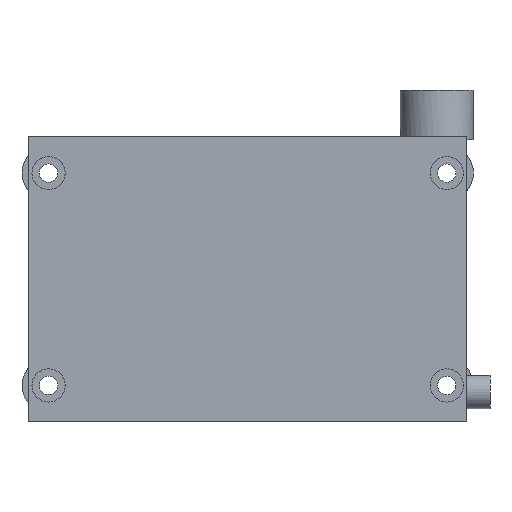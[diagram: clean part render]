
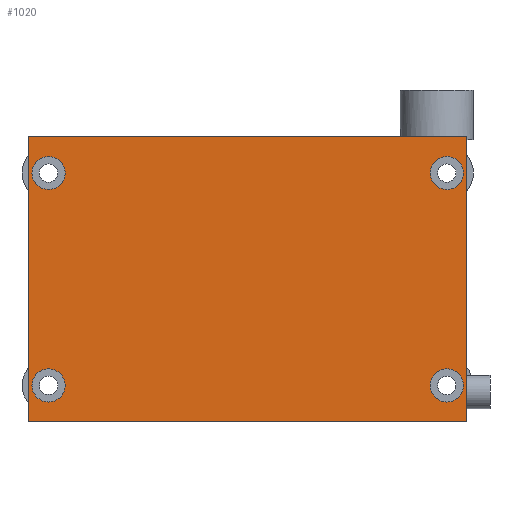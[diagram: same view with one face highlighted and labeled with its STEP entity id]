
A CAD part, front view. The second image highlights one B-rep face of the part: STEP entity #1020.
In plain terms, the highlighted planar face has unit normal (0, -1, 0).
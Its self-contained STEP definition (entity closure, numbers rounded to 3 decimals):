
#32 = PLANE('',#33);
#33 = AXIS2_PLACEMENT_3D('',#34,#35,#36);
#34 = CARTESIAN_POINT('',(-66.,-78.,592.));
#35 = DIRECTION('',(1.,-0.,-0.));
#36 = DIRECTION('',(0.,0.,-1.));
#57 = VERTEX_POINT('',#58);
#58 = CARTESIAN_POINT('',(-66.,-124.,592.));
#72 = PLANE('',#73);
#73 = AXIS2_PLACEMENT_3D('',#74,#75,#76);
#74 = CARTESIAN_POINT('',(-66.,-78.,592.));
#75 = DIRECTION('',(-0.,-0.,1.));
#76 = DIRECTION('',(-1.,0.,0.));
#84 = EDGE_CURVE('',#57,#85,#87,.T.);
#85 = VERTEX_POINT('',#86);
#86 = CARTESIAN_POINT('',(-66.,-124.,678.));
#87 = SURFACE_CURVE('',#88,(#92,#99),.PCURVE_S1.);
#88 = LINE('',#89,#90);
#89 = CARTESIAN_POINT('',(-66.,-124.,592.));
#90 = VECTOR('',#91,1.);
#91 = DIRECTION('',(-0.,-0.,1.));
#92 = PCURVE('',#32,#93);
#93 = DEFINITIONAL_REPRESENTATION('',(#94),#98);
#94 = LINE('',#95,#96);
#95 = CARTESIAN_POINT('',(-0.,-46.));
#96 = VECTOR('',#97,1.);
#97 = DIRECTION('',(-1.,0.));
#98 = ( GEOMETRIC_REPRESENTATION_CONTEXT(2) 
PARAMETRIC_REPRESENTATION_CONTEXT() REPRESENTATION_CONTEXT('2D SPACE',''
  ) );
#99 = PCURVE('',#100,#105);
#100 = PLANE('',#101);
#101 = AXIS2_PLACEMENT_3D('',#102,#103,#104);
#102 = CARTESIAN_POINT('',(-66.,-124.,592.));
#103 = DIRECTION('',(-0.,-1.,0.));
#104 = DIRECTION('',(0.,0.,-1.));
#105 = DEFINITIONAL_REPRESENTATION('',(#106),#110);
#106 = LINE('',#107,#108);
#107 = CARTESIAN_POINT('',(-0.,0.));
#108 = VECTOR('',#109,1.);
#109 = DIRECTION('',(-1.,0.));
#110 = ( GEOMETRIC_REPRESENTATION_CONTEXT(2) 
PARAMETRIC_REPRESENTATION_CONTEXT() REPRESENTATION_CONTEXT('2D SPACE',''
  ) );
#128 = PLANE('',#129);
#129 = AXIS2_PLACEMENT_3D('',#130,#131,#132);
#130 = CARTESIAN_POINT('',(-66.,-78.,678.));
#131 = DIRECTION('',(-0.,-0.,1.));
#132 = DIRECTION('',(-1.,0.,0.));
#384 = PLANE('',#385);
#385 = AXIS2_PLACEMENT_3D('',#386,#387,#388);
#386 = CARTESIAN_POINT('',(66.,-78.,592.));
#387 = DIRECTION('',(1.,-0.,-0.));
#388 = DIRECTION('',(0.,0.,-1.));
#919 = EDGE_CURVE('',#85,#920,#922,.T.);
#920 = VERTEX_POINT('',#921);
#921 = CARTESIAN_POINT('',(66.,-124.,678.));
#922 = SURFACE_CURVE('',#923,(#927,#934),.PCURVE_S1.);
#923 = LINE('',#924,#925);
#924 = CARTESIAN_POINT('',(-66.,-124.,678.));
#925 = VECTOR('',#926,1.);
#926 = DIRECTION('',(1.,-0.,-0.));
#927 = PCURVE('',#128,#928);
#928 = DEFINITIONAL_REPRESENTATION('',(#929),#933);
#929 = LINE('',#930,#931);
#930 = CARTESIAN_POINT('',(-0.,46.));
#931 = VECTOR('',#932,1.);
#932 = DIRECTION('',(-1.,-0.));
#933 = ( GEOMETRIC_REPRESENTATION_CONTEXT(2) 
PARAMETRIC_REPRESENTATION_CONTEXT() REPRESENTATION_CONTEXT('2D SPACE',''
  ) );
#934 = PCURVE('',#100,#935);
#935 = DEFINITIONAL_REPRESENTATION('',(#936),#940);
#936 = LINE('',#937,#938);
#937 = CARTESIAN_POINT('',(-86.,0.));
#938 = VECTOR('',#939,1.);
#939 = DIRECTION('',(0.,1.));
#940 = ( GEOMETRIC_REPRESENTATION_CONTEXT(2) 
PARAMETRIC_REPRESENTATION_CONTEXT() REPRESENTATION_CONTEXT('2D SPACE',''
  ) );
#1020 = ADVANCED_FACE('',(#1021,#1069,#1100,#1131,#1162),#100,.T.);
#1021 = FACE_BOUND('',#1022,.F.);
#1022 = EDGE_LOOP('',(#1023,#1046,#1047,#1048));
#1023 = ORIENTED_EDGE('',*,*,#1024,.F.);
#1024 = EDGE_CURVE('',#57,#1025,#1027,.T.);
#1025 = VERTEX_POINT('',#1026);
#1026 = CARTESIAN_POINT('',(66.,-124.,592.));
#1027 = SURFACE_CURVE('',#1028,(#1032,#1039),.PCURVE_S1.);
#1028 = LINE('',#1029,#1030);
#1029 = CARTESIAN_POINT('',(-66.,-124.,592.));
#1030 = VECTOR('',#1031,1.);
#1031 = DIRECTION('',(1.,-0.,-0.));
#1032 = PCURVE('',#100,#1033);
#1033 = DEFINITIONAL_REPRESENTATION('',(#1034),#1038);
#1034 = LINE('',#1035,#1036);
#1035 = CARTESIAN_POINT('',(-0.,0.));
#1036 = VECTOR('',#1037,1.);
#1037 = DIRECTION('',(0.,1.));
#1038 = ( GEOMETRIC_REPRESENTATION_CONTEXT(2) 
PARAMETRIC_REPRESENTATION_CONTEXT() REPRESENTATION_CONTEXT('2D SPACE',''
  ) );
#1039 = PCURVE('',#72,#1040);
#1040 = DEFINITIONAL_REPRESENTATION('',(#1041),#1045);
#1041 = LINE('',#1042,#1043);
#1042 = CARTESIAN_POINT('',(-0.,46.));
#1043 = VECTOR('',#1044,1.);
#1044 = DIRECTION('',(-1.,-0.));
#1045 = ( GEOMETRIC_REPRESENTATION_CONTEXT(2) 
PARAMETRIC_REPRESENTATION_CONTEXT() REPRESENTATION_CONTEXT('2D SPACE',''
  ) );
#1046 = ORIENTED_EDGE('',*,*,#84,.T.);
#1047 = ORIENTED_EDGE('',*,*,#919,.T.);
#1048 = ORIENTED_EDGE('',*,*,#1049,.F.);
#1049 = EDGE_CURVE('',#1025,#920,#1050,.T.);
#1050 = SURFACE_CURVE('',#1051,(#1055,#1062),.PCURVE_S1.);
#1051 = LINE('',#1052,#1053);
#1052 = CARTESIAN_POINT('',(66.,-124.,592.));
#1053 = VECTOR('',#1054,1.);
#1054 = DIRECTION('',(-0.,-0.,1.));
#1055 = PCURVE('',#100,#1056);
#1056 = DEFINITIONAL_REPRESENTATION('',(#1057),#1061);
#1057 = LINE('',#1058,#1059);
#1058 = CARTESIAN_POINT('',(-0.,132.));
#1059 = VECTOR('',#1060,1.);
#1060 = DIRECTION('',(-1.,0.));
#1061 = ( GEOMETRIC_REPRESENTATION_CONTEXT(2) 
PARAMETRIC_REPRESENTATION_CONTEXT() REPRESENTATION_CONTEXT('2D SPACE',''
  ) );
#1062 = PCURVE('',#384,#1063);
#1063 = DEFINITIONAL_REPRESENTATION('',(#1064),#1068);
#1064 = LINE('',#1065,#1066);
#1065 = CARTESIAN_POINT('',(-0.,-46.));
#1066 = VECTOR('',#1067,1.);
#1067 = DIRECTION('',(-1.,0.));
#1068 = ( GEOMETRIC_REPRESENTATION_CONTEXT(2) 
PARAMETRIC_REPRESENTATION_CONTEXT() REPRESENTATION_CONTEXT('2D SPACE',''
  ) );
#1069 = FACE_BOUND('',#1070,.F.);
#1070 = EDGE_LOOP('',(#1071));
#1071 = ORIENTED_EDGE('',*,*,#1072,.T.);
#1072 = EDGE_CURVE('',#1073,#1073,#1075,.T.);
#1073 = VERTEX_POINT('',#1074);
#1074 = CARTESIAN_POINT('',(-55.,-124.,603.));
#1075 = SURFACE_CURVE('',#1076,(#1081,#1088),.PCURVE_S1.);
#1076 = CIRCLE('',#1077,5.);
#1077 = AXIS2_PLACEMENT_3D('',#1078,#1079,#1080);
#1078 = CARTESIAN_POINT('',(-60.,-124.,603.));
#1079 = DIRECTION('',(-0.,-1.,0.));
#1080 = DIRECTION('',(1.,-0.,-0.));
#1081 = PCURVE('',#100,#1082);
#1082 = DEFINITIONAL_REPRESENTATION('',(#1083),#1087);
#1083 = CIRCLE('',#1084,5.);
#1084 = AXIS2_PLACEMENT_2D('',#1085,#1086);
#1085 = CARTESIAN_POINT('',(-11.,6.));
#1086 = DIRECTION('',(-0.,1.));
#1087 = ( GEOMETRIC_REPRESENTATION_CONTEXT(2) 
PARAMETRIC_REPRESENTATION_CONTEXT() REPRESENTATION_CONTEXT('2D SPACE',''
  ) );
#1088 = PCURVE('',#1089,#1094);
#1089 = CYLINDRICAL_SURFACE('',#1090,5.);
#1090 = AXIS2_PLACEMENT_3D('',#1091,#1092,#1093);
#1091 = CARTESIAN_POINT('',(-60.,-125.,603.));
#1092 = DIRECTION('',(-0.,1.,0.));
#1093 = DIRECTION('',(1.,0.,0.));
#1094 = DEFINITIONAL_REPRESENTATION('',(#1095),#1099);
#1095 = LINE('',#1096,#1097);
#1096 = CARTESIAN_POINT('',(-0.,1.));
#1097 = VECTOR('',#1098,1.);
#1098 = DIRECTION('',(-1.,0.));
#1099 = ( GEOMETRIC_REPRESENTATION_CONTEXT(2) 
PARAMETRIC_REPRESENTATION_CONTEXT() REPRESENTATION_CONTEXT('2D SPACE',''
  ) );
#1100 = FACE_BOUND('',#1101,.F.);
#1101 = EDGE_LOOP('',(#1102));
#1102 = ORIENTED_EDGE('',*,*,#1103,.T.);
#1103 = EDGE_CURVE('',#1104,#1104,#1106,.T.);
#1104 = VERTEX_POINT('',#1105);
#1105 = CARTESIAN_POINT('',(-55.,-124.,667.));
#1106 = SURFACE_CURVE('',#1107,(#1112,#1119),.PCURVE_S1.);
#1107 = CIRCLE('',#1108,5.);
#1108 = AXIS2_PLACEMENT_3D('',#1109,#1110,#1111);
#1109 = CARTESIAN_POINT('',(-60.,-124.,667.));
#1110 = DIRECTION('',(-0.,-1.,0.));
#1111 = DIRECTION('',(1.,-0.,-0.));
#1112 = PCURVE('',#100,#1113);
#1113 = DEFINITIONAL_REPRESENTATION('',(#1114),#1118);
#1114 = CIRCLE('',#1115,5.);
#1115 = AXIS2_PLACEMENT_2D('',#1116,#1117);
#1116 = CARTESIAN_POINT('',(-75.,6.));
#1117 = DIRECTION('',(-0.,1.));
#1118 = ( GEOMETRIC_REPRESENTATION_CONTEXT(2) 
PARAMETRIC_REPRESENTATION_CONTEXT() REPRESENTATION_CONTEXT('2D SPACE',''
  ) );
#1119 = PCURVE('',#1120,#1125);
#1120 = CYLINDRICAL_SURFACE('',#1121,5.);
#1121 = AXIS2_PLACEMENT_3D('',#1122,#1123,#1124);
#1122 = CARTESIAN_POINT('',(-60.,-125.,667.));
#1123 = DIRECTION('',(-0.,1.,0.));
#1124 = DIRECTION('',(1.,0.,0.));
#1125 = DEFINITIONAL_REPRESENTATION('',(#1126),#1130);
#1126 = LINE('',#1127,#1128);
#1127 = CARTESIAN_POINT('',(-0.,1.));
#1128 = VECTOR('',#1129,1.);
#1129 = DIRECTION('',(-1.,0.));
#1130 = ( GEOMETRIC_REPRESENTATION_CONTEXT(2) 
PARAMETRIC_REPRESENTATION_CONTEXT() REPRESENTATION_CONTEXT('2D SPACE',''
  ) );
#1131 = FACE_BOUND('',#1132,.F.);
#1132 = EDGE_LOOP('',(#1133));
#1133 = ORIENTED_EDGE('',*,*,#1134,.T.);
#1134 = EDGE_CURVE('',#1135,#1135,#1137,.T.);
#1135 = VERTEX_POINT('',#1136);
#1136 = CARTESIAN_POINT('',(65.,-124.,603.));
#1137 = SURFACE_CURVE('',#1138,(#1143,#1150),.PCURVE_S1.);
#1138 = CIRCLE('',#1139,5.);
#1139 = AXIS2_PLACEMENT_3D('',#1140,#1141,#1142);
#1140 = CARTESIAN_POINT('',(60.,-124.,603.));
#1141 = DIRECTION('',(-0.,-1.,0.));
#1142 = DIRECTION('',(1.,-0.,-0.));
#1143 = PCURVE('',#100,#1144);
#1144 = DEFINITIONAL_REPRESENTATION('',(#1145),#1149);
#1145 = CIRCLE('',#1146,5.);
#1146 = AXIS2_PLACEMENT_2D('',#1147,#1148);
#1147 = CARTESIAN_POINT('',(-11.,126.));
#1148 = DIRECTION('',(-0.,1.));
#1149 = ( GEOMETRIC_REPRESENTATION_CONTEXT(2) 
PARAMETRIC_REPRESENTATION_CONTEXT() REPRESENTATION_CONTEXT('2D SPACE',''
  ) );
#1150 = PCURVE('',#1151,#1156);
#1151 = CYLINDRICAL_SURFACE('',#1152,5.);
#1152 = AXIS2_PLACEMENT_3D('',#1153,#1154,#1155);
#1153 = CARTESIAN_POINT('',(60.,-125.,603.));
#1154 = DIRECTION('',(-0.,1.,0.));
#1155 = DIRECTION('',(1.,0.,0.));
#1156 = DEFINITIONAL_REPRESENTATION('',(#1157),#1161);
#1157 = LINE('',#1158,#1159);
#1158 = CARTESIAN_POINT('',(-0.,1.));
#1159 = VECTOR('',#1160,1.);
#1160 = DIRECTION('',(-1.,0.));
#1161 = ( GEOMETRIC_REPRESENTATION_CONTEXT(2) 
PARAMETRIC_REPRESENTATION_CONTEXT() REPRESENTATION_CONTEXT('2D SPACE',''
  ) );
#1162 = FACE_BOUND('',#1163,.F.);
#1163 = EDGE_LOOP('',(#1164));
#1164 = ORIENTED_EDGE('',*,*,#1165,.T.);
#1165 = EDGE_CURVE('',#1166,#1166,#1168,.T.);
#1166 = VERTEX_POINT('',#1167);
#1167 = CARTESIAN_POINT('',(65.,-124.,667.));
#1168 = SURFACE_CURVE('',#1169,(#1174,#1181),.PCURVE_S1.);
#1169 = CIRCLE('',#1170,5.);
#1170 = AXIS2_PLACEMENT_3D('',#1171,#1172,#1173);
#1171 = CARTESIAN_POINT('',(60.,-124.,667.));
#1172 = DIRECTION('',(-0.,-1.,0.));
#1173 = DIRECTION('',(1.,-0.,-0.));
#1174 = PCURVE('',#100,#1175);
#1175 = DEFINITIONAL_REPRESENTATION('',(#1176),#1180);
#1176 = CIRCLE('',#1177,5.);
#1177 = AXIS2_PLACEMENT_2D('',#1178,#1179);
#1178 = CARTESIAN_POINT('',(-75.,126.));
#1179 = DIRECTION('',(-0.,1.));
#1180 = ( GEOMETRIC_REPRESENTATION_CONTEXT(2) 
PARAMETRIC_REPRESENTATION_CONTEXT() REPRESENTATION_CONTEXT('2D SPACE',''
  ) );
#1181 = PCURVE('',#1182,#1187);
#1182 = CYLINDRICAL_SURFACE('',#1183,5.);
#1183 = AXIS2_PLACEMENT_3D('',#1184,#1185,#1186);
#1184 = CARTESIAN_POINT('',(60.,-125.,667.));
#1185 = DIRECTION('',(-0.,1.,0.));
#1186 = DIRECTION('',(1.,0.,0.));
#1187 = DEFINITIONAL_REPRESENTATION('',(#1188),#1192);
#1188 = LINE('',#1189,#1190);
#1189 = CARTESIAN_POINT('',(-0.,1.));
#1190 = VECTOR('',#1191,1.);
#1191 = DIRECTION('',(-1.,0.));
#1192 = ( GEOMETRIC_REPRESENTATION_CONTEXT(2) 
PARAMETRIC_REPRESENTATION_CONTEXT() REPRESENTATION_CONTEXT('2D SPACE',''
  ) );
